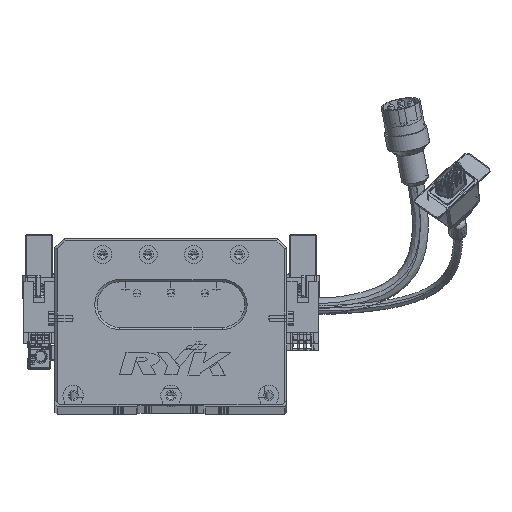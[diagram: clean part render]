
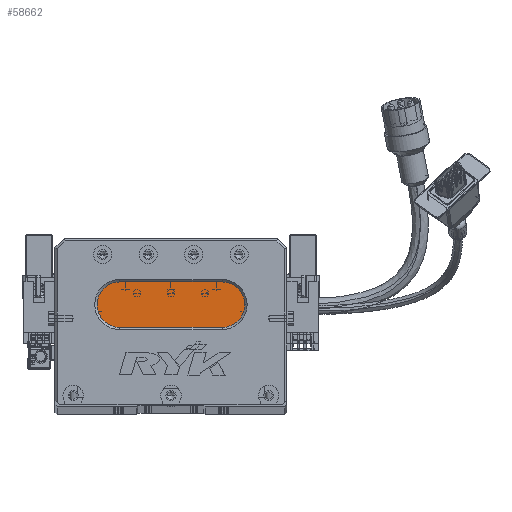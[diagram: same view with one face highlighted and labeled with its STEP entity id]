
A CAD part, top view. The second image highlights one B-rep face of the part: STEP entity #58662.
In plain terms, the highlighted planar face has unit normal (0, 0, 1) as drawn and (0, 0, -1) by its records, which use the part's own axes.
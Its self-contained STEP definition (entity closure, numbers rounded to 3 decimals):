
#178 = VERTEX_POINT ( 'NONE', #19940 ) ;
#322 = VECTOR ( 'NONE', #29230, 1000. ) ;
#3165 = FACE_OUTER_BOUND ( 'NONE', #36968, .T. ) ;
#5111 = AXIS2_PLACEMENT_3D ( 'NONE', #9362, #52802, #52281 ) ;
#5921 = CIRCLE ( 'NONE', #31956, 10. ) ;
#8025 = CARTESIAN_POINT ( 'NONE',  ( 28.5, 44., 13. ) ) ;
#8167 = CARTESIAN_POINT ( 'NONE',  ( 18.5, 44., 13. ) ) ;
#9362 = CARTESIAN_POINT ( 'NONE',  ( 73.5, 44., 13. ) ) ;
#11115 = CARTESIAN_POINT ( 'NONE',  ( 73.5, 44., 13. ) ) ;
#14226 = DIRECTION ( 'NONE',  ( -1., 0., 0. ) ) ;
#18866 = CARTESIAN_POINT ( 'NONE',  ( 73.5, 54., 13. ) ) ;
#19940 = CARTESIAN_POINT ( 'NONE',  ( 28.5, 34., 13. ) ) ;
#22862 = CIRCLE ( 'NONE', #26425, 10. ) ;
#23158 = ORIENTED_EDGE ( 'NONE', *, *, #25536, .T. ) ;
#23711 = DIRECTION ( 'NONE',  ( -1., 0., 0. ) ) ;
#25536 = EDGE_CURVE ( 'NONE', #38299, #178, #42844, .T. ) ;
#26425 = AXIS2_PLACEMENT_3D ( 'NONE', #8025, #50935, #14226 ) ;
#29230 = DIRECTION ( 'NONE',  ( 1., 0., 0. ) ) ;
#29815 = DIRECTION ( 'NONE',  ( 0., 0., -1. ) ) ;
#30006 = ORIENTED_EDGE ( 'NONE', *, *, #59358, .T. ) ;
#31441 = ORIENTED_EDGE ( 'NONE', *, *, #61313, .T. ) ;
#31956 = AXIS2_PLACEMENT_3D ( 'NONE', #11115, #47839, #23711 ) ;
#32736 = EDGE_CURVE ( 'NONE', #70321, #43326, #54039, .T. ) ;
#36968 = EDGE_LOOP ( 'NONE', ( #30006, #23158, #31441, #45384, #55978 ) ) ;
#36983 = CIRCLE ( 'NONE', #40277, 10. ) ;
#38299 = VERTEX_POINT ( 'NONE', #47084 ) ;
#40277 = AXIS2_PLACEMENT_3D ( 'NONE', #41850, #29815, #54170 ) ;
#41850 = CARTESIAN_POINT ( 'NONE',  ( 28.5, 44., 13. ) ) ;
#42844 = LINE ( 'NONE', #57742, #68805 ) ;
#43326 = VERTEX_POINT ( 'NONE', #18866 ) ;
#45102 = DIRECTION ( 'NONE',  ( -1., 0., 0. ) ) ;
#45384 = ORIENTED_EDGE ( 'NONE', *, *, #69789, .T. ) ;
#46081 = PLANE ( 'NONE',  #5111 ) ;
#47084 = CARTESIAN_POINT ( 'NONE',  ( 73.5, 34., 13. ) ) ;
#47839 = DIRECTION ( 'NONE',  ( 0., 0., -1. ) ) ;
#50935 = DIRECTION ( 'NONE',  ( 0., 0., -1. ) ) ;
#52281 = DIRECTION ( 'NONE',  ( -1., 0., 0. ) ) ;
#52802 = DIRECTION ( 'NONE',  ( 0., 0., -1. ) ) ;
#54039 = LINE ( 'NONE', #72397, #322 ) ;
#54170 = DIRECTION ( 'NONE',  ( -1., 0., 0. ) ) ;
#55978 = ORIENTED_EDGE ( 'NONE', *, *, #32736, .T. ) ;
#57742 = CARTESIAN_POINT ( 'NONE',  ( 73.5, 34., 13. ) ) ;
#58662 = ADVANCED_FACE ( 'NONE', ( #3165 ), #46081, .T. ) ;
#59358 = EDGE_CURVE ( 'NONE', #43326, #38299, #5921, .T. ) ;
#61313 = EDGE_CURVE ( 'NONE', #178, #69601, #22862, .T. ) ;
#68805 = VECTOR ( 'NONE', #45102, 1000. ) ;
#69601 = VERTEX_POINT ( 'NONE', #8167 ) ;
#69789 = EDGE_CURVE ( 'NONE', #69601, #70321, #36983, .T. ) ;
#70321 = VERTEX_POINT ( 'NONE', #70774 ) ;
#70774 = CARTESIAN_POINT ( 'NONE',  ( 28.5, 54., 13. ) ) ;
#72397 = CARTESIAN_POINT ( 'NONE',  ( 73.5, 54., 13. ) ) ;
